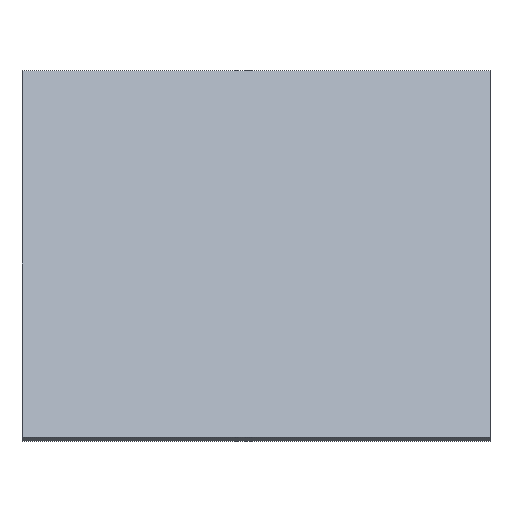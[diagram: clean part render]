
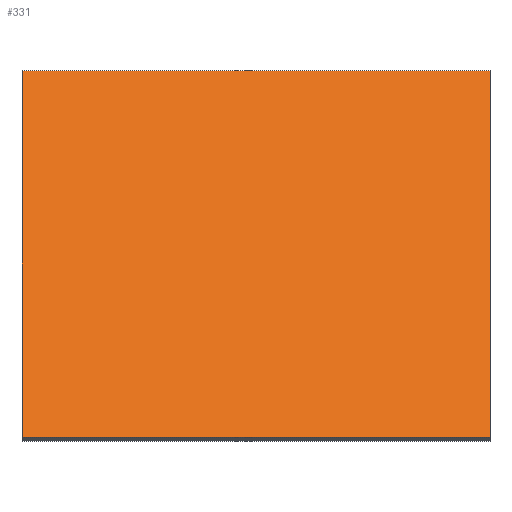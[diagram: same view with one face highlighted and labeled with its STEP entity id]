
A CAD part, top view. The second image highlights one B-rep face of the part: STEP entity #331.
In plain terms, the highlighted planar face has unit normal (0, 0.517, 0.856).
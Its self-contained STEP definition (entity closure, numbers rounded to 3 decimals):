
#22 = VERTEX_POINT('',#23);
#23 = CARTESIAN_POINT('',(-300.,-523.548,1637.215));
#32 = PLANE('',#33);
#33 = AXIS2_PLACEMENT_3D('',#34,#35,#36);
#34 = CARTESIAN_POINT('',(-300.,-523.548,1637.215));
#35 = DIRECTION('',(0.,-0.856,0.517));
#36 = DIRECTION('',(1.,0.,0.));
#44 = PLANE('',#45);
#45 = AXIS2_PLACEMENT_3D('',#46,#47,#48);
#46 = CARTESIAN_POINT('',(-300.,-994.383,1921.493));
#47 = DIRECTION('',(1.,0.,0.));
#48 = DIRECTION('',(0.,0.856,-0.517));
#85 = VERTEX_POINT('',#86);
#86 = CARTESIAN_POINT('',(300.,-523.548,1637.215));
#100 = PLANE('',#101);
#101 = AXIS2_PLACEMENT_3D('',#102,#103,#104);
#102 = CARTESIAN_POINT('',(300.,-523.548,1637.215));
#103 = DIRECTION('',(-1.,-0.,0.));
#104 = DIRECTION('',(0.,-0.856,0.517));
#112 = EDGE_CURVE('',#22,#85,#113,.T.);
#113 = SURFACE_CURVE('',#114,(#118,#125),.PCURVE_S1.);
#114 = LINE('',#115,#116);
#115 = CARTESIAN_POINT('',(-300.,-523.548,1637.215));
#116 = VECTOR('',#117,1.);
#117 = DIRECTION('',(1.,0.,0.));
#118 = PCURVE('',#32,#119);
#119 = DEFINITIONAL_REPRESENTATION('',(#120),#124);
#120 = LINE('',#121,#122);
#121 = CARTESIAN_POINT('',(0.,0.));
#122 = VECTOR('',#123,1.);
#123 = DIRECTION('',(1.,0.));
#124 = ( GEOMETRIC_REPRESENTATION_CONTEXT(2) 
PARAMETRIC_REPRESENTATION_CONTEXT() REPRESENTATION_CONTEXT('2D SPACE',''
  ) );
#125 = PCURVE('',#126,#131);
#126 = PLANE('',#127);
#127 = AXIS2_PLACEMENT_3D('',#128,#129,#130);
#128 = CARTESIAN_POINT('',(0.,-758.966,1779.354));
#129 = DIRECTION('',(-0.,-0.517,-0.856));
#130 = DIRECTION('',(0.,-0.856,0.517));
#131 = DEFINITIONAL_REPRESENTATION('',(#132),#136);
#132 = LINE('',#133,#134);
#133 = CARTESIAN_POINT('',(-275.,300.));
#134 = VECTOR('',#135,1.);
#135 = DIRECTION('',(0.,-1.));
#136 = ( GEOMETRIC_REPRESENTATION_CONTEXT(2) 
PARAMETRIC_REPRESENTATION_CONTEXT() REPRESENTATION_CONTEXT('2D SPACE',''
  ) );
#166 = VERTEX_POINT('',#167);
#167 = CARTESIAN_POINT('',(300.,-994.383,1921.493));
#181 = PLANE('',#182);
#182 = AXIS2_PLACEMENT_3D('',#183,#184,#185);
#183 = CARTESIAN_POINT('',(300.,-994.383,1921.493));
#184 = DIRECTION('',(0.,0.856,-0.517));
#185 = DIRECTION('',(-1.,0.,0.));
#193 = EDGE_CURVE('',#85,#166,#194,.T.);
#194 = SURFACE_CURVE('',#195,(#199,#206),.PCURVE_S1.);
#195 = LINE('',#196,#197);
#196 = CARTESIAN_POINT('',(300.,-523.548,1637.215));
#197 = VECTOR('',#198,1.);
#198 = DIRECTION('',(0.,-0.856,0.517));
#199 = PCURVE('',#100,#200);
#200 = DEFINITIONAL_REPRESENTATION('',(#201),#205);
#201 = LINE('',#202,#203);
#202 = CARTESIAN_POINT('',(0.,0.));
#203 = VECTOR('',#204,1.);
#204 = DIRECTION('',(1.,0.));
#205 = ( GEOMETRIC_REPRESENTATION_CONTEXT(2) 
PARAMETRIC_REPRESENTATION_CONTEXT() REPRESENTATION_CONTEXT('2D SPACE',''
  ) );
#206 = PCURVE('',#126,#207);
#207 = DEFINITIONAL_REPRESENTATION('',(#208),#212);
#208 = LINE('',#209,#210);
#209 = CARTESIAN_POINT('',(-275.,-300.));
#210 = VECTOR('',#211,1.);
#211 = DIRECTION('',(1.,0.));
#212 = ( GEOMETRIC_REPRESENTATION_CONTEXT(2) 
PARAMETRIC_REPRESENTATION_CONTEXT() REPRESENTATION_CONTEXT('2D SPACE',''
  ) );
#242 = VERTEX_POINT('',#243);
#243 = CARTESIAN_POINT('',(-300.,-994.383,1921.493));
#264 = EDGE_CURVE('',#166,#242,#265,.T.);
#265 = SURFACE_CURVE('',#266,(#270,#277),.PCURVE_S1.);
#266 = LINE('',#267,#268);
#267 = CARTESIAN_POINT('',(300.,-994.383,1921.493));
#268 = VECTOR('',#269,1.);
#269 = DIRECTION('',(-1.,0.,0.));
#270 = PCURVE('',#181,#271);
#271 = DEFINITIONAL_REPRESENTATION('',(#272),#276);
#272 = LINE('',#273,#274);
#273 = CARTESIAN_POINT('',(0.,0.));
#274 = VECTOR('',#275,1.);
#275 = DIRECTION('',(1.,0.));
#276 = ( GEOMETRIC_REPRESENTATION_CONTEXT(2) 
PARAMETRIC_REPRESENTATION_CONTEXT() REPRESENTATION_CONTEXT('2D SPACE',''
  ) );
#277 = PCURVE('',#126,#278);
#278 = DEFINITIONAL_REPRESENTATION('',(#279),#283);
#279 = LINE('',#280,#281);
#280 = CARTESIAN_POINT('',(275.,-300.));
#281 = VECTOR('',#282,1.);
#282 = DIRECTION('',(0.,1.));
#283 = ( GEOMETRIC_REPRESENTATION_CONTEXT(2) 
PARAMETRIC_REPRESENTATION_CONTEXT() REPRESENTATION_CONTEXT('2D SPACE',''
  ) );
#311 = EDGE_CURVE('',#242,#22,#312,.T.);
#312 = SURFACE_CURVE('',#313,(#317,#324),.PCURVE_S1.);
#313 = LINE('',#314,#315);
#314 = CARTESIAN_POINT('',(-300.,-994.383,1921.493));
#315 = VECTOR('',#316,1.);
#316 = DIRECTION('',(0.,0.856,-0.517));
#317 = PCURVE('',#44,#318);
#318 = DEFINITIONAL_REPRESENTATION('',(#319),#323);
#319 = LINE('',#320,#321);
#320 = CARTESIAN_POINT('',(0.,0.));
#321 = VECTOR('',#322,1.);
#322 = DIRECTION('',(1.,0.));
#323 = ( GEOMETRIC_REPRESENTATION_CONTEXT(2) 
PARAMETRIC_REPRESENTATION_CONTEXT() REPRESENTATION_CONTEXT('2D SPACE',''
  ) );
#324 = PCURVE('',#126,#325);
#325 = DEFINITIONAL_REPRESENTATION('',(#326),#330);
#326 = LINE('',#327,#328);
#327 = CARTESIAN_POINT('',(275.,300.));
#328 = VECTOR('',#329,1.);
#329 = DIRECTION('',(-1.,0.));
#330 = ( GEOMETRIC_REPRESENTATION_CONTEXT(2) 
PARAMETRIC_REPRESENTATION_CONTEXT() REPRESENTATION_CONTEXT('2D SPACE',''
  ) );
#331 = ADVANCED_FACE('',(#332),#126,.F.);
#332 = FACE_BOUND('',#333,.F.);
#333 = EDGE_LOOP('',(#334,#335,#336,#337));
#334 = ORIENTED_EDGE('',*,*,#112,.T.);
#335 = ORIENTED_EDGE('',*,*,#193,.T.);
#336 = ORIENTED_EDGE('',*,*,#264,.T.);
#337 = ORIENTED_EDGE('',*,*,#311,.T.);
